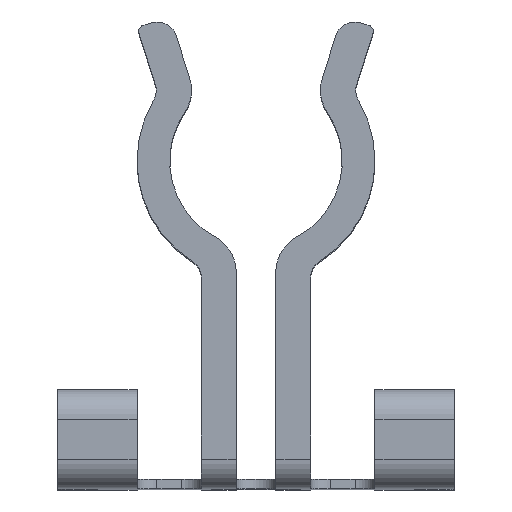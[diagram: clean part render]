
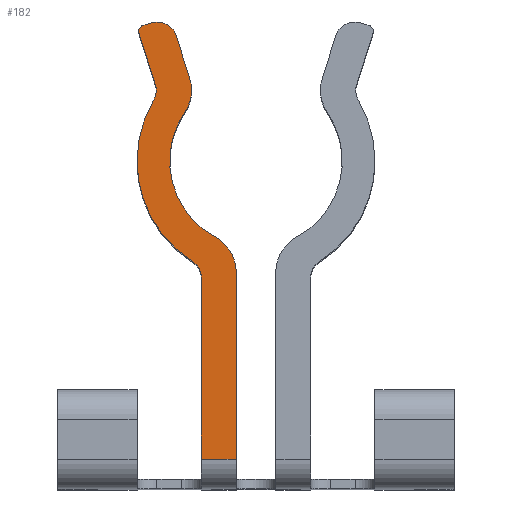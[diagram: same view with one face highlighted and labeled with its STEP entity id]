
A CAD part, top view. The second image highlights one B-rep face of the part: STEP entity #182.
In plain terms, the highlighted planar face has unit normal (0, 0, 1).
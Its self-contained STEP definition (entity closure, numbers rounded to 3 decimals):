
#182 = ADVANCED_FACE( '', ( #452 ), #453, .T. );
#452 = FACE_OUTER_BOUND( '', #773, .T. );
#453 = PLANE( '', #774 );
#773 = EDGE_LOOP( '', ( #1820, #1821, #1822, #1823, #1824, #1825, #1826, #1827, #1828, #1829, #1830, #1831, #1832, #1833 ) );
#774 = AXIS2_PLACEMENT_3D( '', #1834, #1835, #1836 );
#1820 = ORIENTED_EDGE( '', *, *, #2660, .F. );
#1821 = ORIENTED_EDGE( '', *, *, #2691, .T. );
#1822 = ORIENTED_EDGE( '', *, *, #2688, .F. );
#1823 = ORIENTED_EDGE( '', *, *, #2694, .T. );
#1824 = ORIENTED_EDGE( '', *, *, #2577, .T. );
#1825 = ORIENTED_EDGE( '', *, *, #2695, .T. );
#1826 = ORIENTED_EDGE( '', *, *, #2684, .T. );
#1827 = ORIENTED_EDGE( '', *, *, #2681, .F. );
#1828 = ORIENTED_EDGE( '', *, *, #2678, .T. );
#1829 = ORIENTED_EDGE( '', *, *, #2675, .T. );
#1830 = ORIENTED_EDGE( '', *, *, #2672, .T. );
#1831 = ORIENTED_EDGE( '', *, *, #2669, .T. );
#1832 = ORIENTED_EDGE( '', *, *, #2666, .T. );
#1833 = ORIENTED_EDGE( '', *, *, #2663, .T. );
#1834 = CARTESIAN_POINT( '', ( -6.033, 20.088, 17.15 ) );
#1835 = DIRECTION( '', ( 0., 0., 1. ) );
#1836 = DIRECTION( '', ( 1., 0., 0. ) );
#2577 = EDGE_CURVE( '', #3262, #3260, #3263, .T. );
#2660 = EDGE_CURVE( '', #3397, #3399, #3400, .T. );
#2663 = EDGE_CURVE( '', #3404, #3399, #3405, .T. );
#2666 = EDGE_CURVE( '', #3409, #3404, #3410, .T. );
#2669 = EDGE_CURVE( '', #3414, #3409, #3415, .T. );
#2672 = EDGE_CURVE( '', #3419, #3414, #3420, .T. );
#2675 = EDGE_CURVE( '', #3424, #3419, #3425, .T. );
#2678 = EDGE_CURVE( '', #3429, #3424, #3430, .T. );
#2681 = EDGE_CURVE( '', #3429, #3434, #3435, .T. );
#2684 = EDGE_CURVE( '', #3439, #3434, #3440, .T. );
#2688 = EDGE_CURVE( '', #3445, #3447, #3448, .T. );
#2691 = EDGE_CURVE( '', #3397, #3447, #3451, .T. );
#2694 = EDGE_CURVE( '', #3445, #3262, #3454, .T. );
#2695 = EDGE_CURVE( '', #3260, #3439, #3455, .T. );
#3260 = VERTEX_POINT( '', #4220 );
#3262 = VERTEX_POINT( '', #4222 );
#3263 = LINE( '', #4223, #4224 );
#3397 = VERTEX_POINT( '', #4403 );
#3399 = VERTEX_POINT( '', #4406 );
#3400 = CIRCLE( '', #4407, 1. );
#3404 = VERTEX_POINT( '', #4413 );
#3405 = LINE( '', #4414, #4415 );
#3409 = VERTEX_POINT( '', #4420 );
#3410 = CIRCLE( '', #4421, 0.3 );
#3414 = VERTEX_POINT( '', #4427 );
#3415 = LINE( '', #4428, #4429 );
#3419 = VERTEX_POINT( '', #4434 );
#3420 = CIRCLE( '', #4435, 1. );
#3424 = VERTEX_POINT( '', #4441 );
#3425 = LINE( '', #4442, #4443 );
#3429 = VERTEX_POINT( '', #4448 );
#3430 = CIRCLE( '', #4449, 2. );
#3434 = VERTEX_POINT( '', #4454 );
#3435 = CIRCLE( '', #4455, 4.35 );
#3439 = VERTEX_POINT( '', #4460 );
#3440 = CIRCLE( '', #4461, 2. );
#3445 = VERTEX_POINT( '', #4467 );
#3447 = VERTEX_POINT( '', #4470 );
#3448 = CIRCLE( '', #4471, 1. );
#3451 = CIRCLE( '', #4475, 6. );
#3454 = LINE( '', #4480, #4481 );
#3455 = LINE( '', #4482, #4483 );
#4220 = CARTESIAN_POINT( '', ( -1., 1.5, 17.15 ) );
#4222 = CARTESIAN_POINT( '', ( -2.75, 1.5, 17.15 ) );
#4223 = CARTESIAN_POINT( '', ( -2.75, 1.5, 17.15 ) );
#4224 = VECTOR( '', #5125, 1000. );
#4403 = CARTESIAN_POINT( '', ( -5.171, 19.581, 17.15 ) );
#4406 = CARTESIAN_POINT( '', ( -5.079, 20.388, 17.15 ) );
#4407 = AXIS2_PLACEMENT_3D( '', #5280, #5281, #5282 );
#4413 = CARTESIAN_POINT( '', ( -5.899, 22.989, 17.15 ) );
#4414 = CARTESIAN_POINT( '', ( -5.899, 22.989, 17.15 ) );
#4415 = VECTOR( '', #5285, 1000. );
#4420 = CARTESIAN_POINT( '', ( -5.703, 23.365, 17.15 ) );
#4421 = AXIS2_PLACEMENT_3D( '', #5290, #5291, #5292 );
#4427 = CARTESIAN_POINT( '', ( -5.274, 23.5, 17.15 ) );
#4428 = CARTESIAN_POINT( '', ( -5.274, 23.5, 17.15 ) );
#4429 = VECTOR( '', #5295, 1000. );
#4434 = CARTESIAN_POINT( '', ( -4.019, 22.847, 17.15 ) );
#4435 = AXIS2_PLACEMENT_3D( '', #5300, #5301, #5302 );
#4441 = CARTESIAN_POINT( '', ( -3.345, 20.708, 17.15 ) );
#4442 = CARTESIAN_POINT( '', ( -3.345, 20.708, 17.15 ) );
#4443 = VECTOR( '', #5305, 1000. );
#4448 = CARTESIAN_POINT( '', ( -3.598, 18.982, 17.15 ) );
#4449 = AXIS2_PLACEMENT_3D( '', #5310, #5311, #5312 );
#4454 = CARTESIAN_POINT( '', ( -2.055, 12.703, 17.15 ) );
#4455 = AXIS2_PLACEMENT_3D( '', #5317, #5318, #5319 );
#4460 = CARTESIAN_POINT( '', ( -1., 10.94, 17.15 ) );
#4461 = AXIS2_PLACEMENT_3D( '', #5324, #5325, #5326 );
#4467 = CARTESIAN_POINT( '', ( -2.75, 10.626, 17.15 ) );
#4470 = CARTESIAN_POINT( '', ( -3.214, 11.471, 17.15 ) );
#4471 = AXIS2_PLACEMENT_3D( '', #5332, #5333, #5334 );
#4475 = AXIS2_PLACEMENT_3D( '', #5339, #5340, #5341 );
#4480 = CARTESIAN_POINT( '', ( -2.75, 10.626, 17.15 ) );
#4481 = VECTOR( '', #5344, 1000. );
#4482 = CARTESIAN_POINT( '', ( -1., 1.5, 17.15 ) );
#4483 = VECTOR( '', #5345, 1000. );
#5125 = DIRECTION( '', ( 1., 0., 0. ) );
#5280 = CARTESIAN_POINT( '', ( -6.033, 20.088, 17.15 ) );
#5281 = DIRECTION( '', ( 0., 0., 1. ) );
#5282 = DIRECTION( '', ( 1., 0., 0. ) );
#5285 = DIRECTION( '', ( 0.301, -0.954, 0. ) );
#5290 = CARTESIAN_POINT( '', ( -5.613, 23.079, 17.15 ) );
#5291 = DIRECTION( '', ( 0., 0., 1. ) );
#5292 = DIRECTION( '', ( 1., 0., 0. ) );
#5295 = DIRECTION( '', ( -0.954, -0.301, 0. ) );
#5300 = CARTESIAN_POINT( '', ( -4.973, 22.547, 17.15 ) );
#5301 = DIRECTION( '', ( 0., 0., 1. ) );
#5302 = DIRECTION( '', ( 1., 0., 0. ) );
#5305 = DIRECTION( '', ( -0.301, 0.954, 0. ) );
#5310 = CARTESIAN_POINT( '', ( -5.252, 20.106, 17.15 ) );
#5311 = DIRECTION( '', ( 0., 0., 1. ) );
#5312 = DIRECTION( '', ( 1., 0., 0. ) );
#5317 = CARTESIAN_POINT( '', ( 0., 16.537, 17.15 ) );
#5318 = DIRECTION( '', ( 0., 0., 1. ) );
#5319 = DIRECTION( '', ( 1., 0., 0. ) );
#5324 = CARTESIAN_POINT( '', ( -3., 10.94, 17.15 ) );
#5325 = DIRECTION( '', ( 0., 0., 1. ) );
#5326 = DIRECTION( '', ( 1., 0., 0. ) );
#5332 = CARTESIAN_POINT( '', ( -3.75, 10.626, 17.15 ) );
#5333 = DIRECTION( '', ( 0., 0., 1. ) );
#5334 = DIRECTION( '', ( 1., 0., 0. ) );
#5339 = CARTESIAN_POINT( '', ( 0., 16.537, 17.15 ) );
#5340 = DIRECTION( '', ( 0., 0., 1. ) );
#5341 = DIRECTION( '', ( 1., 0., 0. ) );
#5344 = DIRECTION( '', ( 0., -1., 0. ) );
#5345 = DIRECTION( '', ( 0., 1., 0. ) );
